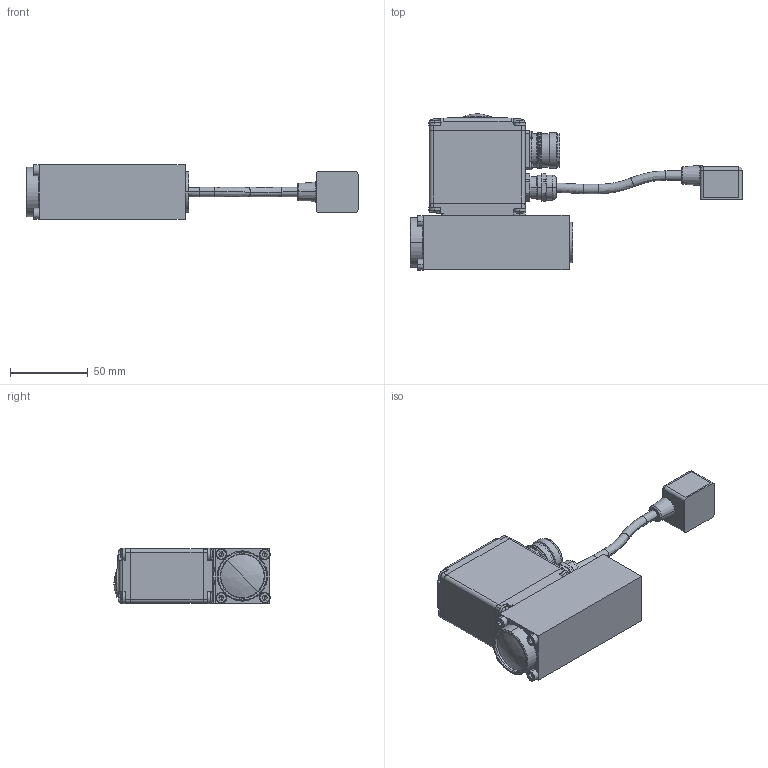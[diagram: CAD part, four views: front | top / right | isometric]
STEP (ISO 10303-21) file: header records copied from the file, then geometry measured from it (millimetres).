
FILE_DESCRIPTION (( 'STEP AP203' ), '1' );
FILE_NAME ('PI35EV-P1-24A .step', '2013-07-29T06:17:14', ( 'Wandfluh AG' ), ( 'Wandfluh AG' ), 'SwSTEP 2.0', 'SolidWorks 2012', '' );
FILE_SCHEMA (( 'CONFIG_CONTROL_DESIGN' ));
Products named in the file (1): PI35EV-P1-24A 
Bounding box: 214.03 x 100.79 x 35.9 mm (x, y, z)
Volume: 212179.4 mm3; surface area: 90260.6 mm2
Topology: 66 solids, 66 shells, 4849 faces, 13054 edges, 8431 vertices
Faces by surface type: plane 2591, cylinder 1285, cone 385, torus 353, bspline 162, sphere 73
Entity records: 158075 total; most frequent: CARTESIAN_POINT 36744, ORIENTED_EDGE 25886, DIRECTION 24754, EDGE_CURVE 12943, VERTEX_POINT 8407, VECTOR 8258, LINE 8258, AXIS2_PLACEMENT_3D 8248
